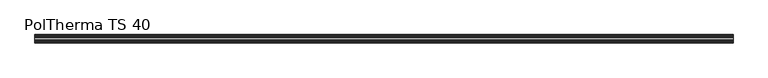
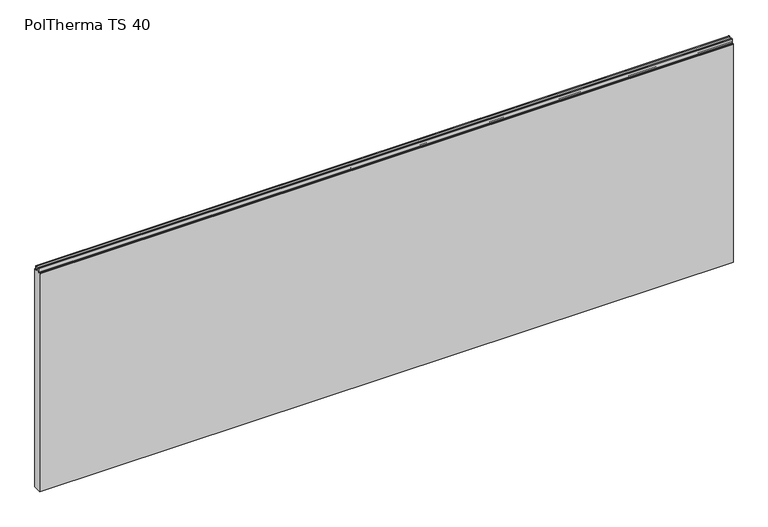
"""IFC4 building model written with IfcOpenShell, lengths in millimetres: plate geometry, Europanels_Poltherma TS_Hz : PolTherma TS 40."""

from ifc_helpers import new_model, si_unit, point, frame, frame_2d, origin, place, context, project, spatial, polyline, circle_curve, trimmed, segment, composite_curve, outline, extrude, source, transform, mapped, element, save


def poltherma_ts_40_f3512897(model_context):
    return source(origin(), model_context, "Body", "SweptSolid", [
        extrude(outline(composite_curve([segment(trimmed(circle_curve(frame_2d((-9.1874198, 1117.5011047)), 2.0), [point((-11.1836192, 1117.624345))], [point((-9.1874198, 1119.5011047))], False, "CARTESIAN"), True, "CONTINUOUS"), segment(polyline([(-9.1874198, 1119.5011047), (-6.4480373, 1119.5011047)]), True, "CONTINUOUS"), segment(trimmed(circle_curve(frame_2d((-6.4480373, 1117.5011047)), 2.0), [point((-6.4480373, 1119.5011047))], [point((-4.4498501, 1117.5862394))], False, "CARTESIAN"), True, "CONTINUOUS"), segment(polyline([(-4.4498501, 1117.5862394), (-3.7101357, 1100.2244834)]), True, "CONTINUOUS"), segment(trimmed(circle_curve(frame_2d((-1.9117672, 1100.3011047)), 1.8), [point((-3.7101357, 1100.2244834))], [point((-1.9117672, 1098.5011047))], True, "CARTESIAN"), True, "CONTINUOUS"), segment(polyline([(-1.9117672, 1098.5011047), (6.113894, 1098.5011047)]), True, "CONTINUOUS"), segment(trimmed(circle_curve(frame_2d((6.113894, 1100.5011047)), 2.0), [point((6.113894, 1098.5011047))], [point((8.1120505, 1100.4152514))], True, "CARTESIAN"), True, "CONTINUOUS"), segment(polyline([(8.1120505, 1100.4152514), (8.8693289, 1117.5889644)]), True, "CONTINUOUS"), segment(trimmed(circle_curve(frame_2d((10.8984404, 1117.5046542)), 2.0308623), [point((8.8693289, 1117.5889644))], [point((11.1407625, 1119.5210078))], False, "CARTESIAN"), True, "CONTINUOUS"), segment(trimmed(circle_curve(frame_2d((11.1407625, 1117.4973942)), 2.0236135), [point((11.1407625, 1119.5210078))], [point((13.1604251, 1117.6237846))], False, "CARTESIAN"), True, "CONTINUOUS"), segment(polyline([(13.1604251, 1117.6237846), (14.2596673, 1100.3765791)]), True, "CONTINUOUS"), segment(trimmed(circle_curve(frame_2d((16.2557869, 1100.5011047)), 2.0), [point((14.2596673, 1100.3765791))], [point((16.2557869, 1098.5011047))], True, "CARTESIAN"), True, "CONTINUOUS"), segment(polyline([(16.2557869, 1098.5011047), (18.0, 1098.5011047)]), True, "CONTINUOUS"), segment(trimmed(circle_curve(frame_2d((18.0, 1096.5011047)), 2.0), [point((18.0, 1098.5011047))], [point((20.0, 1096.5011047))], False, "CARTESIAN"), True, "CONTINUOUS"), segment(polyline([(20.0, 1096.5011047), (20.0, 0.0), (-20.0, 0.0), (-20.0, 1096.5011047)]), True, "CONTINUOUS"), segment(trimmed(circle_curve(frame_2d((-18.0, 1096.5011047)), 2.0), [point((-20.0, 1096.5011047))], [point((-18.0, 1098.5011047))], False, "CARTESIAN"), True, "CONTINUOUS"), segment(polyline([(-18.0, 1098.5011047), (-14.244573, 1098.5011047)]), True, "CONTINUOUS"), segment(trimmed(circle_curve(frame_2d((-14.244573, 1100.5011047)), 2.0), [point((-14.244573, 1098.5011047))], [point((-12.2483736, 1100.3778643))], True, "CARTESIAN"), True, "CONTINUOUS"), segment(polyline([(-12.2483736, 1100.3778643), (-11.1836192, 1117.624345)]), True, "CONTINUOUS")], self_intersect=False)), frame((-1650.0, 0.0, 0.0), z_axis=(1.0, 0.0, 0.0), x_axis=(0.0, 1.0, 0.0)), (0.0, 0.0, 1.0), 3300.0),
    ])


if __name__ == "__main__":
    model = new_model("IFC4")
    model_context = context("Model", 3, world=origin())
    ifc_project = project(units=[si_unit("LENGTHUNIT", "METRE", prefix="MILLI")], contexts=[model_context])
    site = spatial("IfcSite", under=ifc_project)
    building = spatial("IfcBuilding", under=site)
    placement = place(None, origin())
    poltherma_ts_40_shape = poltherma_ts_40_f3512897(model_context)
    element("IfcPlate", 1, ObjectType="Europanels_Poltherma TS_Hz : PolTherma TS 40", at=placement, inside=building, context=model_context, shape_type="MappedRepresentation", body=[
        mapped(poltherma_ts_40_shape, transform((0.0, 0.0, 0.0), x_axis=(1.0, 0.0, 0.0), y_axis=(0.0, 1.0, 0.0), z_axis=(0.0, 0.0, 1.0))),
    ])
    save(model, "model.ifc")
